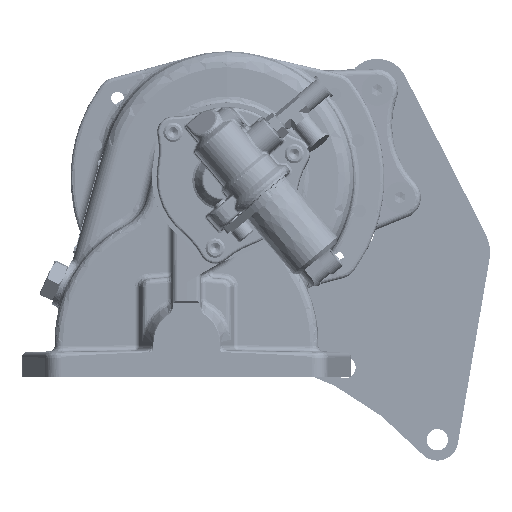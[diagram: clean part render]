
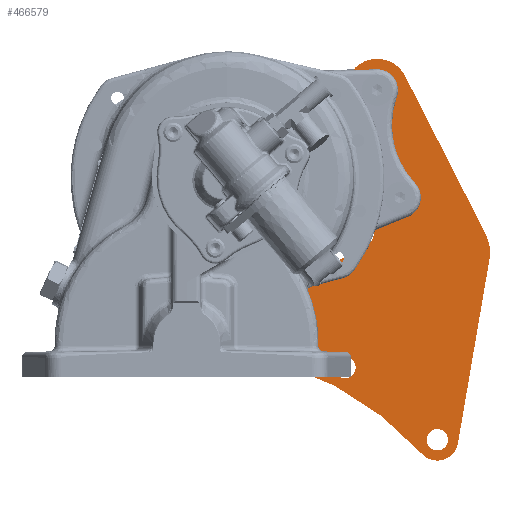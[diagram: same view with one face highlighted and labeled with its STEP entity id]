
A CAD part, left-side view. The second image highlights one B-rep face of the part: STEP entity #466579.
In plain terms, the highlighted planar face has unit normal (-1, 0, 0) as drawn and (0, 0, -1) by its records, which use the part's own axes.
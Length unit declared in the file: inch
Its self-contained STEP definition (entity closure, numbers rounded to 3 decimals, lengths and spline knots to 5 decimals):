
#466209=CARTESIAN_POINT('',(7.84016,2.76032,0.0));
#466210=VERTEX_POINT('',#466209);
#466211=CARTESIAN_POINT('',(7.58416,2.76032,0.0));
#466212=DIRECTION('',(0.0,0.0,1.0));
#466213=DIRECTION('',(-1.0,0.0,0.0));
#466214=AXIS2_PLACEMENT_3D('',#466211,#466212,#466213);
#466215=CIRCLE('',#466214,0.256);
#466216=EDGE_CURVE('',#466210,#466210,#466215,.T.);
#466229=CARTESIAN_POINT('',(6.43859,5.18792,0.0));
#466230=VERTEX_POINT('',#466229);
#466231=CARTESIAN_POINT('',(6.18259,5.18792,0.0));
#466232=DIRECTION('',(0.0,0.0,1.0));
#466233=DIRECTION('',(-1.0,0.0,0.0));
#466234=AXIS2_PLACEMENT_3D('',#466231,#466232,#466233);
#466235=CIRCLE('',#466234,0.256);
#466236=EDGE_CURVE('',#466230,#466230,#466235,.T.);
#466249=CARTESIAN_POINT('',(4.29144,6.98958,0.0));
#466250=VERTEX_POINT('',#466249);
#466251=CARTESIAN_POINT('',(4.03544,6.98958,0.0));
#466252=DIRECTION('',(0.0,0.0,1.0));
#466253=DIRECTION('',(-1.0,0.0,0.0));
#466254=AXIS2_PLACEMENT_3D('',#466251,#466252,#466253);
#466255=CIRCLE('',#466254,0.256);
#466256=EDGE_CURVE('',#466250,#466250,#466255,.T.);
#466269=CARTESIAN_POINT('',(10.13678,7.31959,0.0));
#466270=VERTEX_POINT('',#466269);
#466271=CARTESIAN_POINT('',(9.88678,7.31959,0.0));
#466272=DIRECTION('',(0.0,0.0,1.0));
#466273=DIRECTION('',(-1.0,0.0,0.0));
#466274=AXIS2_PLACEMENT_3D('',#466271,#466272,#466273);
#466275=CIRCLE('',#466274,0.25);
#466276=EDGE_CURVE('',#466270,#466270,#466275,.T.);
#466289=CARTESIAN_POINT('',(12.76178,7.31959,0.0));
#466290=VERTEX_POINT('',#466289);
#466291=CARTESIAN_POINT('',(12.51178,7.31959,0.0));
#466292=DIRECTION('',(0.0,0.0,1.0));
#466293=DIRECTION('',(-1.0,0.0,0.0));
#466294=AXIS2_PLACEMENT_3D('',#466291,#466292,#466293);
#466295=CIRCLE('',#466294,0.25);
#466296=EDGE_CURVE('',#466290,#466290,#466295,.T.);
#466307=CARTESIAN_POINT('',(7.11432,2.58931,0.0));
#466308=VERTEX_POINT('',#466307);
#466315=CARTESIAN_POINT('',(8.07194,2.65044,0.0));
#466316=VERTEX_POINT('',#466315);
#466317=CARTESIAN_POINT('',(7.58416,2.76032,0.0));
#466318=DIRECTION('',(0.0,0.0,1.0));
#466319=DIRECTION('',(-0.94,-0.342,0.0));
#466320=AXIS2_PLACEMENT_3D('',#466317,#466318,#466319);
#466321=CIRCLE('',#466320,0.5);
#466322=EDGE_CURVE('',#466308,#466316,#466321,.T.);
#466339=CARTESIAN_POINT('',(3.78544,6.55656,0.0));
#466340=VERTEX_POINT('',#466339);
#466347=CARTESIAN_POINT('',(0.,0.,0.0));
#466348=DIRECTION('',(0.0,0.0,-1.0));
#466349=DIRECTION('',(-0.94,-0.342,0.0));
#466350=AXIS2_PLACEMENT_3D('',#466347,#466348,#466349);
#466351=CIRCLE('',#466350,7.57087);
#466352=EDGE_CURVE('',#466340,#466308,#466351,.T.);
#466364=CARTESIAN_POINT('',(3.85038,7.45407,0.0));
#466365=VERTEX_POINT('',#466364);
#466372=CARTESIAN_POINT('',(4.03544,6.98958,0.0));
#466373=DIRECTION('',(0.0,0.0,1.0));
#466374=DIRECTION('',(-0.37,0.929,0.0));
#466375=AXIS2_PLACEMENT_3D('',#466372,#466373,#466374);
#466376=CIRCLE('',#466375,0.5);
#466377=EDGE_CURVE('',#466365,#466340,#466376,.T.);
#466389=CARTESIAN_POINT('',(7.98839,9.10263,0.0));
#466390=VERTEX_POINT('',#466389);
#466397=CARTESIAN_POINT('',(7.98839,9.10263,0.0));
#466398=DIRECTION('',(-0.929,-0.37,0.0));
#466399=VECTOR('',#466398,4.45431);
#466400=LINE('',#466397,#466399);
#466401=EDGE_CURVE('',#466390,#466365,#466400,.T.);
#466413=CARTESIAN_POINT('',(8.61731,9.13957,0.0));
#466414=VERTEX_POINT('',#466413);
#466421=CARTESIAN_POINT('',(8.35849,8.17364,0.0));
#466422=DIRECTION('',(0.0,0.0,1.0));
#466423=DIRECTION('',(0.259,0.966,0.0));
#466424=AXIS2_PLACEMENT_3D('',#466421,#466422,#466423);
#466425=CIRCLE('',#466424,1.);
#466426=EDGE_CURVE('',#466414,#466390,#466425,.T.);
#466438=CARTESIAN_POINT('',(12.70589,8.04404,0.0));
#466439=VERTEX_POINT('',#466438);
#466446=CARTESIAN_POINT('',(12.70589,8.04404,0.0));
#466447=DIRECTION('',(-0.966,0.259,0.0));
#466448=VECTOR('',#466447,4.23281);
#466449=LINE('',#466446,#466448);
#466450=EDGE_CURVE('',#466439,#466414,#466449,.T.);
#466462=CARTESIAN_POINT('',(12.51178,6.56959,0.0));
#466463=VERTEX_POINT('',#466462);
#466470=CARTESIAN_POINT('',(12.51178,7.31959,0.0));
#466471=DIRECTION('',(0.0,0.0,1.0));
#466472=DIRECTION('',(0.0,-1.0,0.0));
#466473=AXIS2_PLACEMENT_3D('',#466470,#466471,#466472);
#466474=CIRCLE('',#466473,0.75);
#466475=EDGE_CURVE('',#466463,#466439,#466474,.T.);
#466487=CARTESIAN_POINT('',(9.35466,6.56959,0.0));
#466488=VERTEX_POINT('',#466487);
#466495=CARTESIAN_POINT('',(9.35466,6.56959,0.0));
#466496=DIRECTION('',(1.0,0.0,0.0));
#466497=VECTOR('',#466496,3.15712);
#466498=LINE('',#466495,#466497);
#466499=EDGE_CURVE('',#466488,#466463,#466498,.T.);
#466511=CARTESIAN_POINT('',(8.86688,6.17947,0.0));
#466512=VERTEX_POINT('',#466511);
#466519=CARTESIAN_POINT('',(9.35466,6.06959,0.0));
#466520=DIRECTION('',(0.0,0.0,-1.0));
#466521=DIRECTION('',(0.0,-1.0,0.0));
#466522=AXIS2_PLACEMENT_3D('',#466519,#466520,#466521);
#466523=CIRCLE('',#466522,0.5);
#466524=EDGE_CURVE('',#466512,#466488,#466523,.T.);
#466537=CARTESIAN_POINT('',(8.07194,2.65044,0.0));
#466538=DIRECTION('',(0.22,0.976,0.0));
#466539=VECTOR('',#466538,3.61745);
#466540=LINE('',#466537,#466539);
#466541=EDGE_CURVE('',#466316,#466512,#466540,.T.);
#466547=CARTESIAN_POINT('',(8.25875,6.45508,0.0));
#466548=DIRECTION('',(0.0,0.0,1.0));
#466549=DIRECTION('',(1.0,0.0,0.0));
#466550=AXIS2_PLACEMENT_3D('',#466547,#466548,#466549);
#466551=PLANE('',#466550);
#466552=ORIENTED_EDGE('',*,*,#466541,.F.);
#466553=ORIENTED_EDGE('',*,*,#466322,.F.);
#466554=ORIENTED_EDGE('',*,*,#466352,.F.);
#466555=ORIENTED_EDGE('',*,*,#466377,.F.);
#466556=ORIENTED_EDGE('',*,*,#466401,.F.);
#466557=ORIENTED_EDGE('',*,*,#466426,.F.);
#466558=ORIENTED_EDGE('',*,*,#466450,.F.);
#466559=ORIENTED_EDGE('',*,*,#466475,.F.);
#466560=ORIENTED_EDGE('',*,*,#466499,.F.);
#466561=ORIENTED_EDGE('',*,*,#466524,.F.);
#466562=EDGE_LOOP('',(#466552,#466553,#466554,#466555,#466556,#466557,#466558,#466559,#466560,#466561));
#466563=FACE_OUTER_BOUND('',#466562,.T.);
#466564=ORIENTED_EDGE('',*,*,#466216,.T.);
#466565=EDGE_LOOP('',(#466564));
#466566=FACE_BOUND('',#466565,.T.);
#466567=ORIENTED_EDGE('',*,*,#466236,.T.);
#466568=EDGE_LOOP('',(#466567));
#466569=FACE_BOUND('',#466568,.T.);
#466570=ORIENTED_EDGE('',*,*,#466256,.T.);
#466571=EDGE_LOOP('',(#466570));
#466572=FACE_BOUND('',#466571,.T.);
#466573=ORIENTED_EDGE('',*,*,#466276,.T.);
#466574=EDGE_LOOP('',(#466573));
#466575=FACE_BOUND('',#466574,.T.);
#466576=ORIENTED_EDGE('',*,*,#466296,.T.);
#466577=EDGE_LOOP('',(#466576));
#466578=FACE_BOUND('',#466577,.T.);
#466579=ADVANCED_FACE('',(#466563,#466566,#466569,#466572,#466575,#466578),#466551,.F.);
